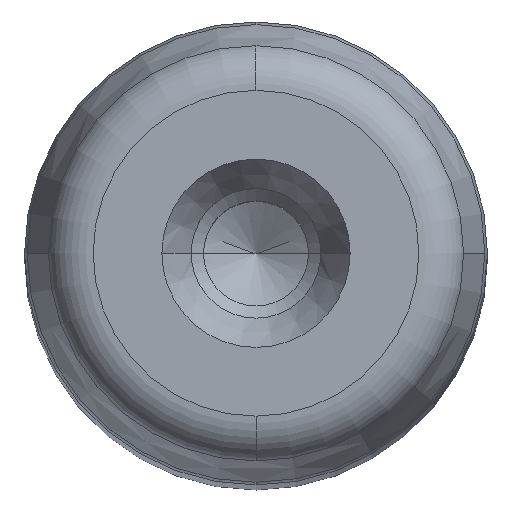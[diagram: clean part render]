
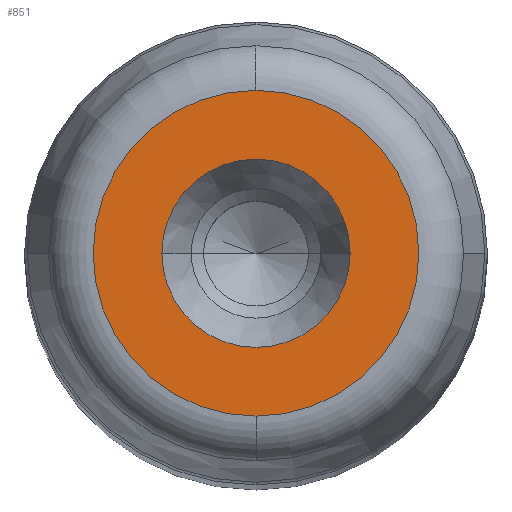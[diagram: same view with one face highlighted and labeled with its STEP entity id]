
A CAD part, top view. The second image highlights one B-rep face of the part: STEP entity #851.
In plain terms, the highlighted planar face has unit normal (0, 0, 1) as drawn and (0, 1, 0) by its records, which use the part's own axes.
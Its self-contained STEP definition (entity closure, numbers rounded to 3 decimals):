
#281=CARTESIAN_POINT('',(6.1,200.0,0.0));
#282=VERTEX_POINT('',#281);
#289=CARTESIAN_POINT('',(-6.1,200.0,0.));
#290=VERTEX_POINT('',#289);
#291=CARTESIAN_POINT('',(0.0,200.0,0.0));
#292=DIRECTION('',(0.0,1.0,0.0));
#293=DIRECTION('',(1.0,0.0,0.0));
#294=AXIS2_PLACEMENT_3D('',#291,#292,#293);
#295=CIRCLE('',#294,6.1);
#296=EDGE_CURVE('',#282,#290,#295,.T.);
#313=CARTESIAN_POINT('',(0.0,200.0,10.554));
#314=VERTEX_POINT('',#313);
#324=CARTESIAN_POINT('',(0.,200.0,-10.554));
#325=VERTEX_POINT('',#324);
#326=CARTESIAN_POINT('',(0.0,200.0,0.0));
#327=DIRECTION('',(0.0,1.0,0.0));
#328=DIRECTION('',(1.0,0.0,0.0));
#329=AXIS2_PLACEMENT_3D('',#326,#327,#328);
#330=CIRCLE('',#329,10.554);
#331=EDGE_CURVE('',#325,#314,#330,.T.);
#812=CARTESIAN_POINT('',(10.554,200.0,0.0));
#813=VERTEX_POINT('',#812);
#814=CARTESIAN_POINT('',(0.0,200.0,0.0));
#815=DIRECTION('',(0.0,1.0,0.0));
#816=DIRECTION('',(1.0,0.0,0.0));
#817=AXIS2_PLACEMENT_3D('',#814,#815,#816);
#818=CIRCLE('',#817,10.554);
#819=EDGE_CURVE('',#813,#325,#818,.T.);
#821=CARTESIAN_POINT('',(0.0,200.0,0.0));
#822=DIRECTION('',(0.0,1.0,0.0));
#823=DIRECTION('',(1.0,0.0,0.0));
#824=AXIS2_PLACEMENT_3D('',#821,#822,#823);
#825=CIRCLE('',#824,10.554);
#826=EDGE_CURVE('',#314,#813,#825,.T.);
#831=CARTESIAN_POINT('',(-11.61,200.0,-11.61));
#832=DIRECTION('',(0.0,1.0,0.0));
#833=DIRECTION('',(0.0,0.0,1.0));
#834=AXIS2_PLACEMENT_3D('',#831,#832,#833);
#835=PLANE('',#834);
#836=ORIENTED_EDGE('',*,*,#819,.T.);
#837=ORIENTED_EDGE('',*,*,#331,.T.);
#838=ORIENTED_EDGE('',*,*,#826,.T.);
#839=EDGE_LOOP('',(#836,#837,#838));
#840=FACE_OUTER_BOUND('',#839,.T.);
#841=ORIENTED_EDGE('',*,*,#296,.F.);
#842=CARTESIAN_POINT('',(0.0,200.0,0.0));
#843=DIRECTION('',(0.0,1.0,0.0));
#844=DIRECTION('',(1.0,0.0,0.0));
#845=AXIS2_PLACEMENT_3D('',#842,#843,#844);
#846=CIRCLE('',#845,6.1);
#847=EDGE_CURVE('',#290,#282,#846,.T.);
#848=ORIENTED_EDGE('',*,*,#847,.F.);
#849=EDGE_LOOP('',(#841,#848));
#850=FACE_BOUND('',#849,.T.);
#851=ADVANCED_FACE('',(#840,#850),#835,.T.);
